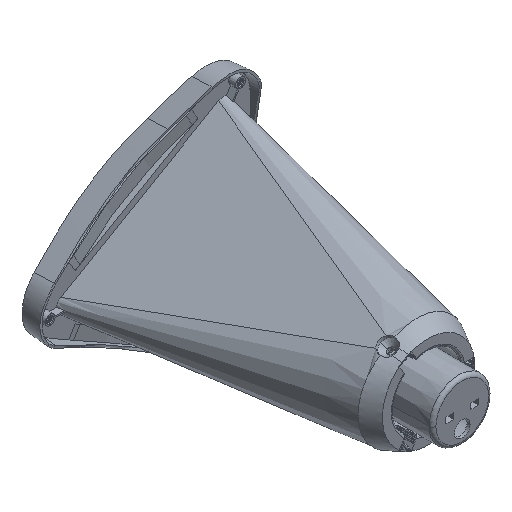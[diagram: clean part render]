
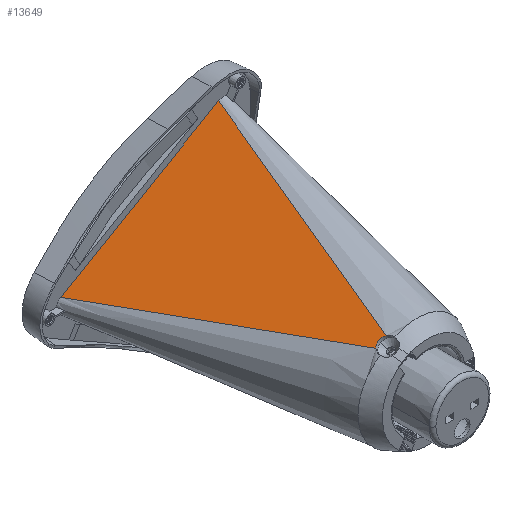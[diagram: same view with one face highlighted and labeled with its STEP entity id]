
A CAD part, isometric view. The second image highlights one B-rep face of the part: STEP entity #13649.
In plain terms, the highlighted planar face has unit normal (-0.5, -0.035, 0.866).
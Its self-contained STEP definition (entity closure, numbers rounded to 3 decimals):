
#478=CARTESIAN_POINT('',(-27.811,18.286,37.797));
#479=CARTESIAN_POINT('',(-27.627,18.49,37.911));
#480=CARTESIAN_POINT('',(-27.259,18.85,38.138));
#481=CARTESIAN_POINT('',(-26.521,19.427,38.588));
#482=CARTESIAN_POINT('',(-25.594,19.931,39.143));
#483=CARTESIAN_POINT('',(-24.477,20.272,39.802));
#484=CARTESIAN_POINT('',(-23.356,20.383,40.454));
#485=CARTESIAN_POINT('',(-22.231,20.272,41.099));
#486=CARTESIAN_POINT('',(-21.102,19.931,41.736));
#487=CARTESIAN_POINT('',(-20.158,19.427,42.261));
#488=CARTESIAN_POINT('',(-19.399,18.85,42.676));
#489=CARTESIAN_POINT('',(-19.019,18.49,42.881));
#490=CARTESIAN_POINT('',(-18.828,18.286,42.983));
#492=DIRECTION('',(0.309,-0.941,0.141));
#493=VECTOR('',#492,222.427);
#494=CARTESIAN_POINT('',(-96.56,227.5,6.541));
#495=LINE('',#494,#493);
#496=DIRECTION('',(-0.276,-0.941,-0.197));
#497=VECTOR('',#496,222.427);
#498=CARTESIAN_POINT('',(42.615,227.5,86.894));
#499=LINE('',#498,#497);
#1218=DIRECTION('',(-0.866,0.,-0.5));
#1219=VECTOR('',#1218,160.705);
#1220=CARTESIAN_POINT('',(42.615,227.5,86.894));
#1221=LINE('',#1220,#1219);
#11880=CARTESIAN_POINT('',(42.615,227.5,86.894));
#11881=CARTESIAN_POINT('',(-96.56,227.5,6.541));
#11882=VERTEX_POINT('',#11880);
#11883=VERTEX_POINT('',#11881);
#12253=VERTEX_POINT('',#478);
#12254=VERTEX_POINT('',#490);
#13634=CARTESIAN_POINT('',(-92.97,0.,-0.56));
#13635=DIRECTION('',(-0.5,-0.035,0.865));
#13636=DIRECTION('',(-0.866,0.,-0.5));
#13637=AXIS2_PLACEMENT_3D('',#13634,#13635,#13636);
#13638=PLANE('',#13637);
#13640=ORIENTED_EDGE('',*,*,#13639,.F.);
#13642=ORIENTED_EDGE('',*,*,#13641,.F.);
#13644=ORIENTED_EDGE('',*,*,#13643,.F.);
#13646=ORIENTED_EDGE('',*,*,#13645,.T.);
#13647=EDGE_LOOP('',(#13640,#13642,#13644,#13646));
#13648=FACE_OUTER_BOUND('',#13647,.F.);
#13649=ADVANCED_FACE('',(#13648),#13638,.T.);
#491=B_SPLINE_CURVE_WITH_KNOTS('',3,(#478,#479,#480,#481,#482,#483,#484,#485,
#486,#487,#488,#489,#490),.UNSPECIFIED.,.F.,.F.,(4,1,1,1,1,1,1,1,1,1,4),(0.,
0.063,0.125,0.25,0.375,0.5,0.625,0.75,0.875,0.938,1.),
.UNSPECIFIED.);
#13639=EDGE_CURVE('',#12253,#12254,#491,.T.);
#13641=EDGE_CURVE('',#11883,#12253,#495,.T.);
#13643=EDGE_CURVE('',#11882,#11883,#1221,.T.);
#13645=EDGE_CURVE('',#11882,#12254,#499,.T.);
